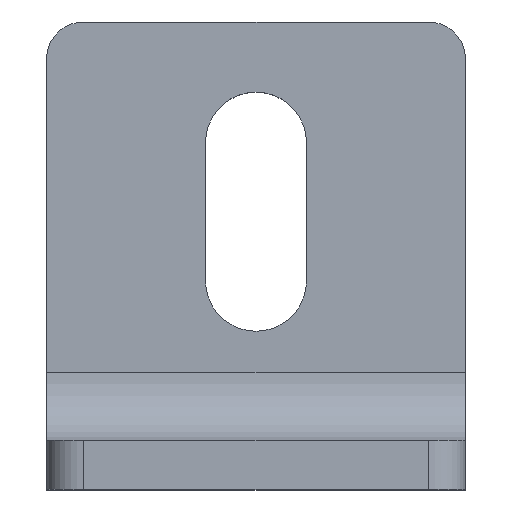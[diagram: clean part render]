
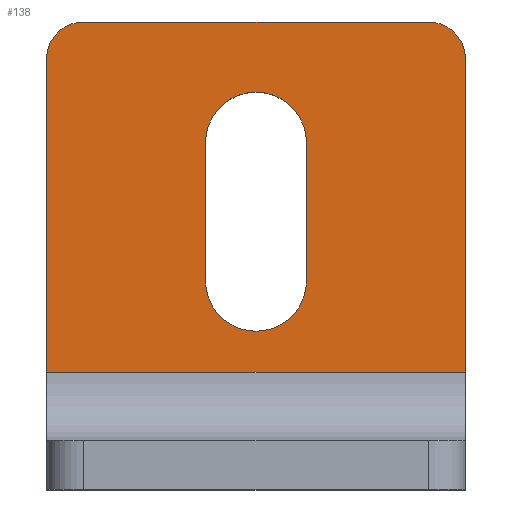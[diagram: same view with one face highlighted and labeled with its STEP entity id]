
A CAD part, top view. The second image highlights one B-rep face of the part: STEP entity #138.
In plain terms, the highlighted planar face has unit normal (0, 0, 1).
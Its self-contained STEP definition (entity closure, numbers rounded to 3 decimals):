
#5 = VERTEX_POINT ( 'NONE', #6 ) ;
#6 = CARTESIAN_POINT ( 'NONE',  ( 17.783, 16.097, 4. ) ) ;
#8 = ORIENTED_EDGE ( 'NONE', *, *, #190, .T. ) ;
#11 = AXIS2_PLACEMENT_3D ( 'NONE', #435, #20, #503 ) ;
#20 = DIRECTION ( 'NONE',  ( 0., 0., 1. ) ) ;
#46 = EDGE_CURVE ( 'NONE', #719, #753, #816, .T. ) ;
#47 = DIRECTION ( 'NONE',  ( 0., -1., 0. ) ) ;
#59 = EDGE_CURVE ( 'NONE', #679, #783, #627, .T. ) ;
#64 = EDGE_CURVE ( 'NONE', #75, #679, #274, .T. ) ;
#73 = EDGE_CURVE ( 'NONE', #237, #734, #747, .T. ) ;
#75 = VERTEX_POINT ( 'NONE', #803 ) ;
#77 = CARTESIAN_POINT ( 'NONE',  ( -13.217, 19.097, 4. ) ) ;
#78 = EDGE_CURVE ( 'NONE', #718, #5, #387, .T. ) ;
#84 = CIRCLE ( 'NONE', #334, 3. ) ;
#100 = AXIS2_PLACEMENT_3D ( 'NONE', #210, #491, #757 ) ;
#116 = DIRECTION ( 'NONE',  ( 0., 1., 0. ) ) ;
#118 = CARTESIAN_POINT ( 'NONE',  ( 4.883, 9.297, 4. ) ) ;
#138 = ADVANCED_FACE ( 'NONE', ( #344, #367 ), #253, .T. ) ;
#139 = ORIENTED_EDGE ( 'NONE', *, *, #59, .F. ) ;
#151 = CARTESIAN_POINT ( 'NONE',  ( 4.883, -1.903, 4. ) ) ;
#167 = CIRCLE ( 'NONE', #756, 3. ) ;
#185 = DIRECTION ( 'NONE',  ( 1., 0., 0. ) ) ;
#190 = EDGE_CURVE ( 'NONE', #753, #237, #84, .T. ) ;
#203 = VECTOR ( 'NONE', #635, 1000. ) ;
#210 = CARTESIAN_POINT ( 'NONE',  ( 0.783, -1.903, 4. ) ) ;
#223 = VECTOR ( 'NONE', #47, 1000. ) ;
#231 = CARTESIAN_POINT ( 'NONE',  ( 17.783, -9.343, 4. ) ) ;
#236 = ORIENTED_EDGE ( 'NONE', *, *, #64, .F. ) ;
#237 = VERTEX_POINT ( 'NONE', #600 ) ;
#239 = VECTOR ( 'NONE', #116, 1000. ) ;
#253 = PLANE ( 'NONE',  #547 ) ;
#256 = DIRECTION ( 'NONE',  ( 0., 0., 1. ) ) ;
#258 = CARTESIAN_POINT ( 'NONE',  ( 17.783, 19.097, 4. ) ) ;
#274 = LINE ( 'NONE', #349, #793 ) ;
#284 = LINE ( 'NONE', #589, #239 ) ;
#291 = DIRECTION ( 'NONE',  ( 0., 0., 1. ) ) ;
#293 = LINE ( 'NONE', #588, #813 ) ;
#308 = DIRECTION ( 'NONE',  ( 0., 0., 1. ) ) ;
#327 = DIRECTION ( 'NONE',  ( 1., 0., 0. ) ) ;
#331 = CARTESIAN_POINT ( 'NONE',  ( -16.217, 19.097, 4. ) ) ;
#334 = AXIS2_PLACEMENT_3D ( 'NONE', #476, #308, #516 ) ;
#344 = FACE_OUTER_BOUND ( 'NONE', #386, .T. ) ;
#349 = CARTESIAN_POINT ( 'NONE',  ( -3.317, 9.297, 4. ) ) ;
#367 = FACE_BOUND ( 'NONE', #507, .T. ) ;
#383 = ORIENTED_EDGE ( 'NONE', *, *, #422, .T. ) ;
#386 = EDGE_LOOP ( 'NONE', ( #704, #383, #495, #396, #449, #8 ) ) ;
#387 = LINE ( 'NONE', #258, #203 ) ;
#396 = ORIENTED_EDGE ( 'NONE', *, *, #777, .T. ) ;
#415 = DIRECTION ( 'NONE',  ( -1., 0., 0. ) ) ;
#422 = EDGE_CURVE ( 'NONE', #734, #718, #293, .T. ) ;
#427 = CARTESIAN_POINT ( 'NONE',  ( -16.217, -9.343, 4. ) ) ;
#435 = CARTESIAN_POINT ( 'NONE',  ( 0.783, 9.297, 4. ) ) ;
#449 = ORIENTED_EDGE ( 'NONE', *, *, #46, .T. ) ;
#462 = VECTOR ( 'NONE', #415, 1000. ) ;
#476 = CARTESIAN_POINT ( 'NONE',  ( -13.217, 16.097, 4. ) ) ;
#478 = VERTEX_POINT ( 'NONE', #118 ) ;
#491 = DIRECTION ( 'NONE',  ( 0., 0., 1. ) ) ;
#495 = ORIENTED_EDGE ( 'NONE', *, *, #78, .T. ) ;
#496 = DIRECTION ( 'NONE',  ( 0., -1., 0. ) ) ;
#498 = CIRCLE ( 'NONE', #11, 4.1 ) ;
#503 = DIRECTION ( 'NONE',  ( 1., 0., 0. ) ) ;
#507 = EDGE_LOOP ( 'NONE', ( #631, #139, #236, #527 ) ) ;
#516 = DIRECTION ( 'NONE',  ( 1., 0., 0. ) ) ;
#527 = ORIENTED_EDGE ( 'NONE', *, *, #782, .F. ) ;
#547 = AXIS2_PLACEMENT_3D ( 'NONE', #801, #256, #327 ) ;
#588 = CARTESIAN_POINT ( 'NONE',  ( 0., -9.343, 4. ) ) ;
#589 = CARTESIAN_POINT ( 'NONE',  ( 4.883, -1.903, 4. ) ) ;
#600 = CARTESIAN_POINT ( 'NONE',  ( -16.217, 16.097, 4. ) ) ;
#627 = CIRCLE ( 'NONE', #100, 4.1 ) ;
#631 = ORIENTED_EDGE ( 'NONE', *, *, #845, .F. ) ;
#635 = DIRECTION ( 'NONE',  ( 0., 1., 0. ) ) ;
#646 = CARTESIAN_POINT ( 'NONE',  ( -3.317, -1.903, 4. ) ) ;
#679 = VERTEX_POINT ( 'NONE', #646 ) ;
#699 = CARTESIAN_POINT ( 'NONE',  ( 14.783, 16.097, 4. ) ) ;
#704 = ORIENTED_EDGE ( 'NONE', *, *, #73, .T. ) ;
#718 = VERTEX_POINT ( 'NONE', #231 ) ;
#719 = VERTEX_POINT ( 'NONE', #874 ) ;
#734 = VERTEX_POINT ( 'NONE', #427 ) ;
#747 = LINE ( 'NONE', #331, #223 ) ;
#753 = VERTEX_POINT ( 'NONE', #77 ) ;
#756 = AXIS2_PLACEMENT_3D ( 'NONE', #699, #291, #766 ) ;
#757 = DIRECTION ( 'NONE',  ( 1., 0., 0. ) ) ;
#766 = DIRECTION ( 'NONE',  ( 1., 0., 0. ) ) ;
#777 = EDGE_CURVE ( 'NONE', #5, #719, #167, .T. ) ;
#782 = EDGE_CURVE ( 'NONE', #478, #75, #498, .T. ) ;
#783 = VERTEX_POINT ( 'NONE', #151 ) ;
#793 = VECTOR ( 'NONE', #496, 1000. ) ;
#801 = CARTESIAN_POINT ( 'NONE',  ( 0., 0., 4. ) ) ;
#803 = CARTESIAN_POINT ( 'NONE',  ( -3.317, 9.297, 4. ) ) ;
#813 = VECTOR ( 'NONE', #185, 1000. ) ;
#816 = LINE ( 'NONE', #888, #462 ) ;
#845 = EDGE_CURVE ( 'NONE', #783, #478, #284, .T. ) ;
#874 = CARTESIAN_POINT ( 'NONE',  ( 14.783, 19.097, 4. ) ) ;
#888 = CARTESIAN_POINT ( 'NONE',  ( -16.217, 19.097, 4. ) ) ;
